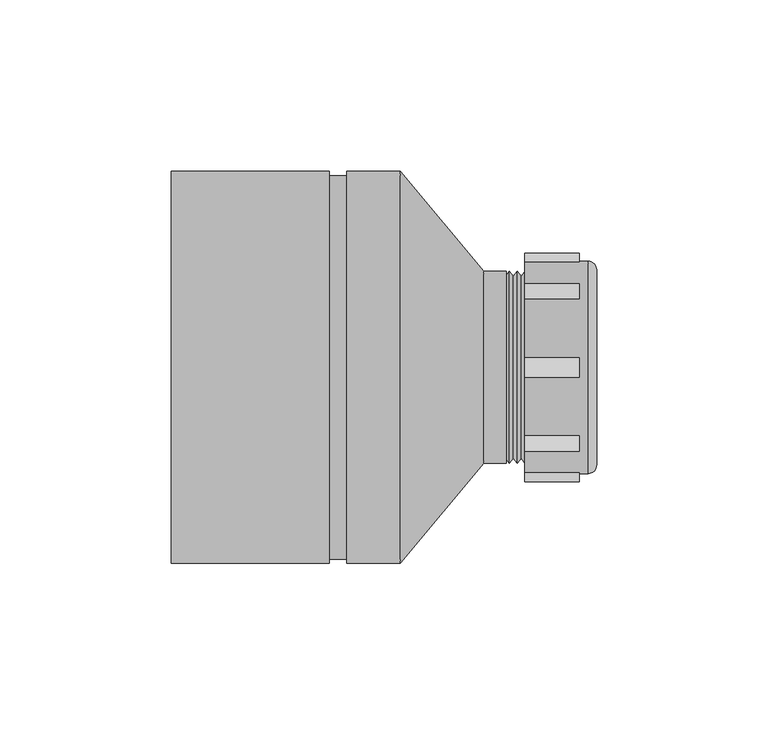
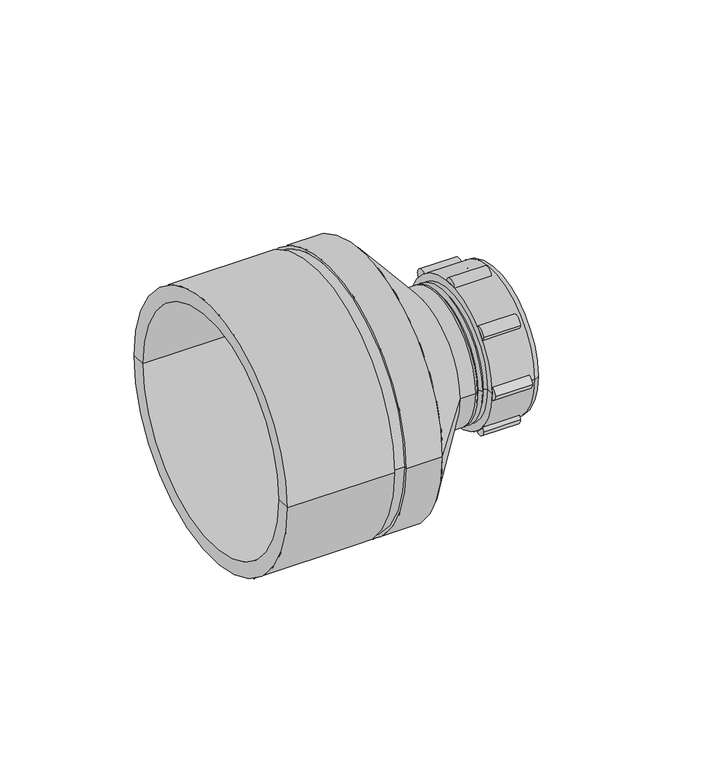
"""IFC4 building model written with IfcOpenShell, lengths in millimetres: pipe fitting geometry, Durapipe_PipeFitting_VulcatheneMechanical_ReducingCoupler_W39 : W3921_2Inxh x 1.5Inch_51mm x 38mm."""

from ifc_helpers import new_model, si_unit, point, frame, frame_2d, origin, place, context, project, spatial, polyline, circle_curve, ellipse_curve, trimmed, segment, composite_curve, outline, extrude, source, transform, mapped, element, save
from ifc_brep_helpers import plane_surface, cylinder_surface, revolved_surface, advanced_brep


def pipe_fitting_35e404ef(model_context):
    return source(origin(), model_context, "Body", "SolidModel", [
        advanced_brep(
        [(-62.0, -57.15, 0.0), (-62.0, 57.15, 0.0), (-15.9625, 57.15, 0.0), (-15.9625, -57.15, 0.0), (-62.0, -50.8, 0.0), (-62.0, 50.8, 0.0), (1.5, -50.8, 0.0), (1.5, 50.8, 0.0), (28.658437, -20.6375, 0.0), (28.658437, 20.6375, 0.0), (32.869, -20.6375, 0.0), (32.869, 20.6375, 0.0), (32.869, -24.2697, 0.0), (32.869, 24.2697, 0.0), (41.1, -24.2697, 0.0), (41.1, 24.2697, 0.0), (41.1, -27.8855714, 0.0), (41.1, 27.8855714, 0.0), (41.1, 30.9478068, 0.0), (41.1, -30.9478068, 0.0), (40.0275, -26.5176, 0.0), (40.0275, 26.5176, 0.0), (38.8725, -27.9908, 0.0), (38.8725, 27.9908, 0.0), (37.7175, -26.5176, 0.0), (37.7175, 26.5176, 0.0), (36.5625, -27.9908, 0.0), (36.5625, 27.9908, 0.0), (35.63125, -26.8029926, 0.0), (35.63125, 26.8029926, 0.0), (35.63125, -27.9908, 0.0), (35.63125, 27.9908, 0.0), (29.142474, -27.9908, 0.0), (29.142474, 27.9908, 0.0), (4.7358364, -57.15, 0.0), (4.7358364, 57.15, 0.0), (-10.8825, -57.15, 0.0), (-10.8825, 57.15, 0.0), (-10.8825, -55.9181, 0.0), (-10.8825, 55.9181, 0.0), (-15.9625, -55.9181, 0.0), (-15.9625, 55.9181, 0.0), (62.0, -28.4478068, 0.0), (62.0, 28.4478068, 0.0), (62.0, 24.4, 0.0), (62.0, -24.4, 0.0), (59.5, -30.9478068, 0.0), (59.5, 30.9478068, 0.0), (41.1, -27.7, 0.0), (41.1, 27.7, 0.0), (57.8, -27.7, 0.0), (57.8, 27.7, 0.0), (57.8, -24.4, 0.0), (57.8, 24.4, 0.0)],
        [
            (0, 1, circle_curve(frame((-62.0, 0.0, 0.0), z_axis=(1.0, 0.0, 0.0), x_axis=(0.0, 1.0, 0.0)), 57.15)),
            (1, 2),
            (2, 3, circle_curve(frame((-15.9625, 0.0, 0.0), z_axis=(-1.0, 0.0, 0.0), x_axis=(0.0, 1.0, 0.0)), 57.15)),
            (3, 0),
            (1, 0, circle_curve(frame((-62.0, 0.0, 0.0), z_axis=(1.0, 0.0, 0.0), x_axis=(0.0, 1.0, 0.0)), 57.15)),
            (3, 2, circle_curve(frame((-15.9625, 0.0, 0.0), z_axis=(-1.0, 0.0, 0.0), x_axis=(0.0, 1.0, 0.0)), 57.15)),
            (4, 5, circle_curve(frame((-62.0, 0.0, 0.0), z_axis=(1.0, 0.0, 0.0), x_axis=(0.0, 1.0, 0.0)), 50.8)),
            (5, 1),
            (0, 4),
            (5, 4, circle_curve(frame((-62.0, 0.0, 0.0), z_axis=(1.0, 0.0, 0.0), x_axis=(0.0, 1.0, 0.0)), 50.8)),
            (6, 7, circle_curve(frame((1.5, 0.0, 0.0), z_axis=(1.0, 0.0, 0.0), x_axis=(0.0, 1.0, 0.0)), 50.8)),
            (7, 5),
            (4, 6),
            (7, 6, circle_curve(frame((1.5, 0.0, 0.0), z_axis=(1.0, 0.0, 0.0), x_axis=(0.0, 1.0, 0.0)), 50.8)),
            (8, 9, circle_curve(frame((28.658437, 0.0, 0.0), z_axis=(1.0, 0.0, 0.0), x_axis=(0.0, 1.0, 0.0)), 20.6375)),
            (9, 7),
            (6, 8),
            (9, 8, circle_curve(frame((28.658437, 0.0, 0.0), z_axis=(1.0, 0.0, 0.0), x_axis=(0.0, 1.0, 0.0)), 20.6375)),
            (10, 11, circle_curve(frame((32.869, 0.0, 0.0), z_axis=(1.0, 0.0, 0.0), x_axis=(0.0, 1.0, 0.0)), 20.6375)),
            (11, 9),
            (8, 10),
            (11, 10, circle_curve(frame((32.869, 0.0, 0.0), z_axis=(1.0, 0.0, 0.0), x_axis=(0.0, 1.0, 0.0)), 20.6375)),
            (12, 13, circle_curve(frame((32.869, 0.0, 0.0), z_axis=(1.0, 0.0, 0.0), x_axis=(0.0, 1.0, 0.0)), 24.2697)),
            (13, 11),
            (10, 12),
            (13, 12, circle_curve(frame((32.869, 0.0, 0.0), z_axis=(1.0, 0.0, 0.0), x_axis=(0.0, 1.0, 0.0)), 24.2697)),
            (14, 15, circle_curve(frame((41.1, 0.0, 0.0), z_axis=(1.0, 0.0, 0.0), x_axis=(0.0, 1.0, 0.0)), 24.2697)),
            (15, 13),
            (12, 14),
            (15, 14, circle_curve(frame((41.1, 0.0, 0.0), z_axis=(1.0, 0.0, 0.0), x_axis=(0.0, 1.0, 0.0)), 24.2697)),
            (16, 17, circle_curve(frame((41.1, 0.0, 0.0), z_axis=(1.0, 0.0, 0.0), x_axis=(0.0, 1.0, 0.0)), 27.8855714)),
            (17, 18),
            (18, 19, circle_curve(frame((41.1, 0.0, 0.0), z_axis=(-1.0, 0.0, 0.0), x_axis=(0.0, 1.0, 0.0)), 30.9478068)),
            (19, 16),
            (17, 16, circle_curve(frame((41.1, 0.0, 0.0), z_axis=(1.0, 0.0, 0.0), x_axis=(0.0, 1.0, 0.0)), 27.8855714)),
            (19, 18, circle_curve(frame((41.1, 0.0, 0.0), z_axis=(-1.0, 0.0, 0.0), x_axis=(0.0, 1.0, 0.0)), 30.9478068)),
            (20, 21, circle_curve(frame((40.0275, 0.0, 0.0), z_axis=(1.0, 0.0, 0.0), x_axis=(0.0, 1.0, 0.0)), 26.5176)),
            (21, 17),
            (16, 20),
            (21, 20, circle_curve(frame((40.0275, 0.0, 0.0), z_axis=(1.0, 0.0, 0.0), x_axis=(0.0, 1.0, 0.0)), 26.5176)),
            (22, 23, circle_curve(frame((38.8725, 0.0, 0.0), z_axis=(1.0, 0.0, 0.0), x_axis=(0.0, 1.0, 0.0)), 27.9908)),
            (23, 21),
            (20, 22),
            (23, 22, circle_curve(frame((38.8725, 0.0, 0.0), z_axis=(1.0, 0.0, 0.0), x_axis=(0.0, 1.0, 0.0)), 27.9908)),
            (24, 25, circle_curve(frame((37.7175, 0.0, 0.0), z_axis=(1.0, 0.0, 0.0), x_axis=(0.0, 1.0, 0.0)), 26.5176)),
            (25, 23),
            (22, 24),
            (25, 24, circle_curve(frame((37.7175, 0.0, 0.0), z_axis=(1.0, 0.0, 0.0), x_axis=(0.0, 1.0, 0.0)), 26.5176)),
            (26, 27, circle_curve(frame((36.5625, 0.0, 0.0), z_axis=(1.0, 0.0, 0.0), x_axis=(0.0, 1.0, 0.0)), 27.9908)),
            (27, 25),
            (24, 26),
            (27, 26, circle_curve(frame((36.5625, 0.0, 0.0), z_axis=(1.0, 0.0, 0.0), x_axis=(0.0, 1.0, 0.0)), 27.9908)),
            (28, 29, circle_curve(frame((35.63125, 0.0, 0.0), z_axis=(1.0, 0.0, 0.0), x_axis=(0.0, 1.0, 0.0)), 26.8029926)),
            (29, 27),
            (26, 28),
            (29, 28, circle_curve(frame((35.63125, 0.0, 0.0), z_axis=(1.0, 0.0, 0.0), x_axis=(0.0, 1.0, 0.0)), 26.8029926)),
            (30, 31, circle_curve(frame((35.63125, 0.0, 0.0), z_axis=(1.0, 0.0, 0.0), x_axis=(0.0, 1.0, 0.0)), 27.9908)),
            (31, 29),
            (28, 30),
            (31, 30, circle_curve(frame((35.63125, 0.0, 0.0), z_axis=(1.0, 0.0, 0.0), x_axis=(0.0, 1.0, 0.0)), 27.9908)),
            (32, 33, circle_curve(frame((29.142474, 0.0, 0.0), z_axis=(1.0, 0.0, 0.0), x_axis=(0.0, 1.0, 0.0)), 27.9908)),
            (33, 31),
            (30, 32),
            (33, 32, circle_curve(frame((29.142474, 0.0, 0.0), z_axis=(1.0, 0.0, 0.0), x_axis=(0.0, 1.0, 0.0)), 27.9908)),
            (34, 35, circle_curve(frame((4.7358364, 0.0, 0.0), z_axis=(1.0, 0.0, 0.0), x_axis=(0.0, 1.0, 0.0)), 57.15)),
            (35, 33),
            (32, 34),
            (35, 34, circle_curve(frame((4.7358364, 0.0, 0.0), z_axis=(1.0, 0.0, 0.0), x_axis=(0.0, 1.0, 0.0)), 57.15)),
            (36, 37, circle_curve(frame((-10.8825, 0.0, 0.0), z_axis=(1.0, 0.0, 0.0), x_axis=(0.0, 1.0, 0.0)), 57.15)),
            (37, 35),
            (34, 36),
            (37, 36, circle_curve(frame((-10.8825, 0.0, 0.0), z_axis=(1.0, 0.0, 0.0), x_axis=(0.0, 1.0, 0.0)), 57.15)),
            (38, 39, circle_curve(frame((-10.8825, 0.0, 0.0), z_axis=(1.0, 0.0, 0.0), x_axis=(0.0, 1.0, 0.0)), 55.9181)),
            (39, 37),
            (36, 38),
            (39, 38, circle_curve(frame((-10.8825, 0.0, 0.0), z_axis=(1.0, 0.0, 0.0), x_axis=(0.0, 1.0, 0.0)), 55.9181)),
            (40, 41, circle_curve(frame((-15.9625, 0.0, 0.0), z_axis=(1.0, 0.0, 0.0), x_axis=(0.0, 1.0, 0.0)), 55.9181)),
            (41, 39),
            (38, 40),
            (41, 40, circle_curve(frame((-15.9625, 0.0, 0.0), z_axis=(1.0, 0.0, 0.0), x_axis=(0.0, 1.0, 0.0)), 55.9181)),
            (2, 41),
            (40, 3),
            (42, 43, circle_curve(frame((62.0, 0.0, 0.0), z_axis=(1.0, 0.0, 0.0), x_axis=(0.0, 1.0, 0.0)), 28.4478068)),
            (43, 44),
            (44, 45, circle_curve(frame((62.0, 0.0, 0.0), z_axis=(-1.0, 0.0, 0.0), x_axis=(0.0, 1.0, 0.0)), 24.4)),
            (45, 42),
            (43, 42, circle_curve(frame((62.0, 0.0, 0.0), z_axis=(1.0, 0.0, 0.0), x_axis=(0.0, 1.0, 0.0)), 28.4478068)),
            (45, 44, circle_curve(frame((62.0, 0.0, 0.0), z_axis=(-1.0, 0.0, 0.0), x_axis=(0.0, 1.0, 0.0)), 24.4)),
            (46, 47, circle_curve(frame((59.5, 0.0, 0.0), z_axis=(1.0, 0.0, 0.0), x_axis=(0.0, 1.0, 0.0)), 30.9478068)),
            (47, 43, circle_curve(frame((59.5, 28.4478068, 0.0), z_axis=(0.0, 0.0, -1.0), x_axis=(1.0, 0.0, 0.0)), 2.5)),
            (42, 46, circle_curve(frame((59.5, -28.4478068, 0.0), z_axis=(0.0, 0.0, -1.0), x_axis=(1.0, 0.0, 0.0)), 2.5)),
            (47, 46, circle_curve(frame((59.5, 0.0, 0.0), z_axis=(1.0, 0.0, 0.0), x_axis=(0.0, 1.0, 0.0)), 30.9478068)),
            (18, 47),
            (46, 19),
            (48, 49, circle_curve(frame((41.1, 0.0, 0.0), z_axis=(1.0, 0.0, 0.0), x_axis=(0.0, 1.0, 0.0)), 27.7)),
            (49, 15),
            (14, 48),
            (49, 48, circle_curve(frame((41.1, 0.0, 0.0), z_axis=(1.0, 0.0, 0.0), x_axis=(0.0, 1.0, 0.0)), 27.7)),
            (50, 51, circle_curve(frame((57.8, 0.0, 0.0), z_axis=(1.0, 0.0, 0.0), x_axis=(0.0, 1.0, 0.0)), 27.7)),
            (51, 49),
            (48, 50),
            (51, 50, circle_curve(frame((57.8, 0.0, 0.0), z_axis=(1.0, 0.0, 0.0), x_axis=(0.0, 1.0, 0.0)), 27.7)),
            (52, 53, circle_curve(frame((57.8, 0.0, 0.0), z_axis=(1.0, 0.0, 0.0), x_axis=(0.0, 1.0, 0.0)), 24.4)),
            (53, 51),
            (50, 52),
            (53, 52, circle_curve(frame((57.8, 0.0, 0.0), z_axis=(1.0, 0.0, 0.0), x_axis=(0.0, 1.0, 0.0)), 24.4)),
            (44, 53),
            (52, 45),
        ],
        [
            cylinder_surface(frame((78.658437, 0.0, 0.0), z_axis=(-1.0, 0.0, 0.0), x_axis=(0.0, 1.0, 0.0)), 57.15),
            plane_surface(frame((-62.0, 0.0, 0.0), z_axis=(-1.0, 0.0, 0.0), x_axis=(0.0, 1.0, 0.0))),
            revolved_surface(polyline([(-61.999999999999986, 50.8, 0.0), (1.5, 50.8, 0.0)]), (78.658437, 0.0, 0.0), (-1.0, 0.0, 0.0)),
            revolved_surface(polyline([(1.5, 50.8, 0.0), (28.658437, 20.6375, 0.0)]), (78.658437, 0.0, 0.0), (-1.0, 0.0, 0.0)),
            revolved_surface(polyline([(28.658437, 20.6375, 0.0), (32.869, 20.6375, 0.0)]), (78.658437, 0.0, 0.0), (-1.0, 0.0, 0.0)),
            plane_surface(frame((32.869, 0.0, 0.0), z_axis=(1.0, 0.0, 0.0), x_axis=(0.0, 1.0, 0.0))),
            revolved_surface(polyline([(32.869, 24.2697, 0.0), (41.1, 24.2697, 0.0)]), (78.658437, 0.0, 0.0), (-1.0, 0.0, 0.0)),
            plane_surface(frame((41.1, 0.0, 0.0), z_axis=(-1.0, 0.0, 0.0), x_axis=(0.0, 1.0, 0.0))),
            revolved_surface(polyline([(41.1, 27.8855714, 0.0), (40.0275, 26.5176, 0.0)]), (78.658437, 0.0, 0.0), (-1.0, 0.0, 0.0)),
            revolved_surface(polyline([(40.0275, 26.5176, 0.0), (38.8725, 27.9908, 0.0)]), (78.658437, 0.0, 0.0), (-1.0, 0.0, 0.0)),
            revolved_surface(polyline([(38.8725, 27.9908, 0.0), (37.7175, 26.5176, 0.0)]), (78.658437, 0.0, 0.0), (-1.0, 0.0, 0.0)),
            revolved_surface(polyline([(37.7175, 26.5176, 0.0), (36.5625, 27.9908, 0.0)]), (78.658437, 0.0, 0.0), (-1.0, 0.0, 0.0)),
            revolved_surface(polyline([(36.5625, 27.9908, 0.0), (35.63125, 26.8029926, 0.0)]), (78.658437, 0.0, 0.0), (-1.0, 0.0, 0.0)),
            plane_surface(frame((35.63125, 0.0, 0.0), z_axis=(1.0, 0.0, 0.0), x_axis=(0.0, 1.0, 0.0))),
            cylinder_surface(frame((78.658437, 0.0, 0.0), z_axis=(-1.0, 0.0, 0.0), x_axis=(0.0, 1.0, 0.0)), 27.9908),
            revolved_surface(polyline([(29.142474, 27.9908, 0.0), (4.7358364, 57.15, 0.0)]), (78.658437, 0.0, 0.0), (-1.0, 0.0, 0.0)),
            plane_surface(frame((-10.8825, 0.0, 0.0), z_axis=(-1.0, 0.0, 0.0), x_axis=(0.0, 1.0, 0.0))),
            cylinder_surface(frame((78.658437, 0.0, 0.0), z_axis=(-1.0, 0.0, 0.0), x_axis=(0.0, 1.0, 0.0)), 55.9181),
            plane_surface(frame((-15.9625, 0.0, 0.0), z_axis=(1.0, 0.0, 0.0), x_axis=(0.0, 1.0, 0.0))),
            plane_surface(frame((62.0, 0.0, 0.0), z_axis=(1.0, 0.0, 0.0), x_axis=(0.0, 1.0, 0.0))),
            revolved_surface(trimmed(ellipse_curve(frame((59.5, 28.4478068, 0.0), z_axis=(0.0, 0.0, 1.0), x_axis=(1.0, 0.0, 0.0)), 2.5, 2.5), [point((62.0, 28.4478068, 0.0))], [point((59.5, 30.9478068, 0.0))], True, "CARTESIAN"), (78.658437, 0.0, 0.0), (-1.0, 0.0, 0.0)),
            cylinder_surface(frame((78.658437, 0.0, 0.0), z_axis=(-1.0, 0.0, 0.0), x_axis=(0.0, 1.0, 0.0)), 30.9478068),
            plane_surface(frame((41.1, 0.0, 0.0), z_axis=(1.0, 0.0, 0.0), x_axis=(0.0, 1.0, 0.0))),
            revolved_surface(polyline([(41.1, 27.7, 0.0), (57.8, 27.7, 0.0)]), (78.658437, 0.0, 0.0), (-1.0, 0.0, 0.0)),
            plane_surface(frame((57.8, 0.0, 0.0), z_axis=(-1.0, 0.0, 0.0), x_axis=(0.0, 1.0, 0.0))),
            revolved_surface(polyline([(57.8, 24.4, 0.0), (62.0, 24.4, 0.0)]), (78.658437, 0.0, 0.0), (-1.0, 0.0, 0.0)),
        ],
        [
            (0, [[1, 2, 3, 4]]),
            (0, [[5, -4, 6, -2]]),
            (1, [[7, 8, -1, 9]]),
            (1, [[10, -9, -5, -8]]),
            (2, [[11, 12, -7, 13]]),
            (2, [[14, -13, -10, -12]]),
            (3, [[15, 16, -11, 17]]),
            (3, [[18, -17, -14, -16]]),
            (4, [[19, 20, -15, 21]]),
            (4, [[22, -21, -18, -20]]),
            (5, [[23, 24, -19, 25]]),
            (5, [[26, -25, -22, -24]]),
            (6, [[27, 28, -23, 29]]),
            (6, [[30, -29, -26, -28]]),
            (7, [[31, 32, 33, 34]]),
            (7, [[35, -34, 36, -32]]),
            (8, [[37, 38, -31, 39]]),
            (8, [[40, -39, -35, -38]]),
            (9, [[41, 42, -37, 43]]),
            (9, [[44, -43, -40, -42]]),
            (10, [[45, 46, -41, 47]]),
            (10, [[48, -47, -44, -46]]),
            (11, [[49, 50, -45, 51]]),
            (11, [[52, -51, -48, -50]]),
            (12, [[53, 54, -49, 55]]),
            (12, [[56, -55, -52, -54]]),
            (13, [[57, 58, -53, 59]]),
            (13, [[60, -59, -56, -58]]),
            (14, [[61, 62, -57, 63]]),
            (14, [[64, -63, -60, -62]]),
            (15, [[65, 66, -61, 67]]),
            (15, [[68, -67, -64, -66]]),
            (0, [[69, 70, -65, 71]]),
            (0, [[72, -71, -68, -70]]),
            (16, [[73, 74, -69, 75]]),
            (16, [[76, -75, -72, -74]]),
            (17, [[77, 78, -73, 79]]),
            (17, [[80, -79, -76, -78]]),
            (18, [[-3, 81, -77, 82]]),
            (18, [[-6, -82, -80, -81]]),
            (19, [[83, 84, 85, 86]]),
            (19, [[87, -86, 88, -84]]),
            (20, [[89, 90, -83, 91]]),
            (20, [[92, -91, -87, -90]]),
            (21, [[-33, 93, -89, 94]]),
            (21, [[-36, -94, -92, -93]]),
            (22, [[95, 96, -27, 97]]),
            (22, [[98, -97, -30, -96]]),
            (23, [[99, 100, -95, 101]]),
            (23, [[102, -101, -98, -100]]),
            (24, [[103, 104, -99, 105]]),
            (24, [[106, -105, -102, -104]]),
            (25, [[-85, 107, -103, 108]]),
            (25, [[-88, -108, -106, -107]]),
        ],
    ),
        advanced_brep(
        [(53.3, -24.2, 0.0), (53.3, 24.2, 0.0), (51.3, 24.2, 0.0), (51.3, -24.2, 0.0), (53.3, -23.4, 0.0), (53.3, 23.4, 0.0), (55.6, -23.4, 0.0), (55.6, 23.4, 0.0), (55.6, -24.2, 0.0), (55.6, 24.2, 0.0), (57.8, -24.2, 0.0), (57.8, 24.2, 0.0), (57.8, -26.36, 0.0), (57.8, 26.36, 0.0), (52.8, -25.9, 0.0), (52.8, 25.9, 0.0), (52.8, -25.1, 0.0), (52.8, 25.1, 0.0), (51.3, -25.1, 0.0), (51.3, 25.1, 0.0)],
        [
            (0, 1, circle_curve(frame((53.3, 0.0, 0.0), z_axis=(1.0, 0.0, 0.0), x_axis=(0.0, 1.0, 0.0)), 24.2)),
            (1, 2),
            (2, 3, circle_curve(frame((51.3, 0.0, 0.0), z_axis=(-1.0, 0.0, 0.0), x_axis=(0.0, 1.0, 0.0)), 24.2)),
            (3, 0),
            (1, 0, circle_curve(frame((53.3, 0.0, 0.0), z_axis=(1.0, 0.0, 0.0), x_axis=(0.0, 1.0, 0.0)), 24.2)),
            (3, 2, circle_curve(frame((51.3, 0.0, 0.0), z_axis=(-1.0, 0.0, 0.0), x_axis=(0.0, 1.0, 0.0)), 24.2)),
            (4, 5, circle_curve(frame((53.3, 0.0, 0.0), z_axis=(1.0, 0.0, 0.0), x_axis=(0.0, 1.0, 0.0)), 23.4)),
            (5, 1),
            (0, 4),
            (5, 4, circle_curve(frame((53.3, 0.0, 0.0), z_axis=(1.0, 0.0, 0.0), x_axis=(0.0, 1.0, 0.0)), 23.4)),
            (6, 7, circle_curve(frame((55.6, 0.0, 0.0), z_axis=(1.0, 0.0, 0.0), x_axis=(0.0, 1.0, 0.0)), 23.4)),
            (7, 5),
            (4, 6),
            (7, 6, circle_curve(frame((55.6, 0.0, 0.0), z_axis=(1.0, 0.0, 0.0), x_axis=(0.0, 1.0, 0.0)), 23.4)),
            (8, 9, circle_curve(frame((55.6, 0.0, 0.0), z_axis=(1.0, 0.0, 0.0), x_axis=(0.0, 1.0, 0.0)), 24.2)),
            (9, 7),
            (6, 8),
            (9, 8, circle_curve(frame((55.6, 0.0, 0.0), z_axis=(1.0, 0.0, 0.0), x_axis=(0.0, 1.0, 0.0)), 24.2)),
            (10, 11, circle_curve(frame((57.8, 0.0, 0.0), z_axis=(1.0, 0.0, 0.0), x_axis=(0.0, 1.0, 0.0)), 24.2)),
            (11, 9),
            (8, 10),
            (11, 10, circle_curve(frame((57.8, 0.0, 0.0), z_axis=(1.0, 0.0, 0.0), x_axis=(0.0, 1.0, 0.0)), 24.2)),
            (12, 13, circle_curve(frame((57.8, 0.0, 0.0), z_axis=(1.0, 0.0, 0.0), x_axis=(0.0, 1.0, 0.0)), 26.36)),
            (13, 11),
            (10, 12),
            (13, 12, circle_curve(frame((57.8, 0.0, 0.0), z_axis=(1.0, 0.0, 0.0), x_axis=(0.0, 1.0, 0.0)), 26.36)),
            (14, 15, circle_curve(frame((52.8, 0.0, 0.0), z_axis=(1.0, 0.0, 0.0), x_axis=(0.0, 1.0, 0.0)), 25.9)),
            (15, 13),
            (12, 14),
            (15, 14, circle_curve(frame((52.8, 0.0, 0.0), z_axis=(1.0, 0.0, 0.0), x_axis=(0.0, 1.0, 0.0)), 25.9)),
            (16, 17, circle_curve(frame((52.8, 0.0, 0.0), z_axis=(1.0, 0.0, 0.0), x_axis=(0.0, 1.0, 0.0)), 25.1)),
            (17, 15),
            (14, 16),
            (17, 16, circle_curve(frame((52.8, 0.0, 0.0), z_axis=(1.0, 0.0, 0.0), x_axis=(0.0, 1.0, 0.0)), 25.1)),
            (18, 19, circle_curve(frame((51.3, 0.0, 0.0), z_axis=(1.0, 0.0, 0.0), x_axis=(0.0, 1.0, 0.0)), 25.1)),
            (19, 17),
            (16, 18),
            (19, 18, circle_curve(frame((51.3, 0.0, 0.0), z_axis=(1.0, 0.0, 0.0), x_axis=(0.0, 1.0, 0.0)), 25.1)),
            (2, 19),
            (18, 3),
        ],
        [
            revolved_surface(polyline([(51.299999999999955, 24.2, 0.0), (53.299999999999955, 24.2, 0.0)]), (1571.2518184, 0.0, 0.0), (-1.0, 0.0, 0.0)),
            plane_surface(frame((53.3, 0.0, 0.0), z_axis=(-1.0, 0.0, 0.0), x_axis=(0.0, 1.0, 0.0))),
            revolved_surface(polyline([(53.299999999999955, 23.4, 0.0), (55.59999999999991, 23.4, 0.0)]), (1571.2518184, 0.0, 0.0), (-1.0, 0.0, 0.0)),
            plane_surface(frame((55.6, 0.0, 0.0), z_axis=(1.0, 0.0, 0.0), x_axis=(0.0, 1.0, 0.0))),
            revolved_surface(polyline([(55.59999999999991, 24.2, 0.0), (57.799999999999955, 24.2, 0.0)]), (1571.2518184, 0.0, 0.0), (-1.0, 0.0, 0.0)),
            plane_surface(frame((57.8, 0.0, 0.0), z_axis=(1.0, 0.0, 0.0), x_axis=(0.0, 1.0, 0.0))),
            revolved_surface(polyline([(57.8, 26.36, 0.0), (52.8, 25.9, 0.0)]), (1571.2518184, 0.0, 0.0), (-1.0, 0.0, 0.0)),
            plane_surface(frame((52.8, 0.0, 0.0), z_axis=(-1.0, 0.0, 0.0), x_axis=(0.0, 1.0, 0.0))),
            cylinder_surface(frame((1571.2518184, 0.0, 0.0), z_axis=(-1.0, 0.0, 0.0), x_axis=(0.0, 1.0, 0.0)), 25.1),
            plane_surface(frame((51.3, 0.0, 0.0), z_axis=(-1.0, 0.0, 0.0), x_axis=(0.0, 1.0, 0.0))),
        ],
        [
            (0, [[1, 2, 3, 4]]),
            (0, [[5, -4, 6, -2]]),
            (1, [[7, 8, -1, 9]]),
            (1, [[10, -9, -5, -8]]),
            (2, [[11, 12, -7, 13]]),
            (2, [[14, -13, -10, -12]]),
            (3, [[15, 16, -11, 17]]),
            (3, [[18, -17, -14, -16]]),
            (4, [[19, 20, -15, 21]]),
            (4, [[22, -21, -18, -20]]),
            (5, [[23, 24, -19, 25]]),
            (5, [[26, -25, -22, -24]]),
            (6, [[27, 28, -23, 29]]),
            (6, [[30, -29, -26, -28]]),
            (7, [[31, 32, -27, 33]]),
            (7, [[34, -33, -30, -32]]),
            (8, [[35, 36, -31, 37]]),
            (8, [[38, -37, -34, -36]]),
            (9, [[-3, 39, -35, 40]]),
            (9, [[-6, -40, -38, -39]]),
        ],
    ),
        extrude(outline(composite_curve([segment(trimmed(circle_curve(frame_2d((-21.4606908, 21.4606908)), 3.0), [point((-24.4606908, 21.4606908))], [point((-18.4606908, 21.4606908))], False, "CARTESIAN"), True, "CONTINUOUS"), segment(trimmed(circle_curve(frame_2d((-21.4606908, 21.4606908)), 3.0), [point((-18.4606908, 21.4606908))], [point((-24.4606908, 21.4606908))], False, "CARTESIAN"), True, "CONTINUOUS")], self_intersect=False)), frame((41.1, 0.0, 0.0), z_axis=(1.0, 0.0, 0.0), x_axis=(0.0, 1.0, 0.0)), (0.0, 0.0, 1.0), 15.9),
        extrude(outline(composite_curve([segment(trimmed(circle_curve(frame_2d((0.0, 30.35)), 3.0), [point((-3.0, 30.35))], [point((3.0, 30.35))], False, "CARTESIAN"), True, "CONTINUOUS"), segment(trimmed(circle_curve(frame_2d((0.0, 30.35)), 3.0), [point((3.0, 30.35))], [point((-3.0, 30.35))], False, "CARTESIAN"), True, "CONTINUOUS")], self_intersect=False)), frame((41.1, 0.0, 0.0), z_axis=(1.0, 0.0, 0.0), x_axis=(0.0, 1.0, 0.0)), (0.0, 0.0, 1.0), 15.9),
        extrude(outline(composite_curve([segment(trimmed(circle_curve(frame_2d((21.4606908, 21.4606908)), 3.0), [point((18.4606908, 21.4606908))], [point((24.4606908, 21.4606908))], False, "CARTESIAN"), True, "CONTINUOUS"), segment(trimmed(circle_curve(frame_2d((21.4606908, 21.4606908)), 3.0), [point((24.4606908, 21.4606908))], [point((18.4606908, 21.4606908))], False, "CARTESIAN"), True, "CONTINUOUS")], self_intersect=False)), frame((41.1, 0.0, 0.0), z_axis=(1.0, 0.0, 0.0), x_axis=(0.0, 1.0, 0.0)), (0.0, 0.0, 1.0), 15.9),
        extrude(outline(composite_curve([segment(trimmed(circle_curve(frame_2d((30.35, 0.0)), 3.0), [point((27.35, 0.0))], [point((33.35, 0.0))], False, "CARTESIAN"), True, "CONTINUOUS"), segment(trimmed(circle_curve(frame_2d((30.35, 0.0)), 3.0), [point((33.35, 0.0))], [point((27.35, 0.0))], False, "CARTESIAN"), True, "CONTINUOUS")], self_intersect=False)), frame((41.1, 0.0, 0.0), z_axis=(1.0, 0.0, 0.0), x_axis=(0.0, 1.0, 0.0)), (0.0, 0.0, 1.0), 15.9),
        extrude(outline(composite_curve([segment(trimmed(circle_curve(frame_2d((0.0, -30.35)), 3.0), [point((-3.0, -30.35))], [point((3.0, -30.35))], False, "CARTESIAN"), True, "CONTINUOUS"), segment(trimmed(circle_curve(frame_2d((0.0, -30.35)), 3.0), [point((3.0, -30.35))], [point((-3.0, -30.35))], False, "CARTESIAN"), True, "CONTINUOUS")], self_intersect=False)), frame((41.1, 0.0, 0.0), z_axis=(1.0, 0.0, 0.0), x_axis=(0.0, 1.0, 0.0)), (0.0, 0.0, 1.0), 15.9),
        extrude(outline(composite_curve([segment(trimmed(circle_curve(frame_2d((-21.4606908, -21.4606908)), 3.0), [point((-24.4606908, -21.4606908))], [point((-18.4606908, -21.4606908))], False, "CARTESIAN"), True, "CONTINUOUS"), segment(trimmed(circle_curve(frame_2d((-21.4606908, -21.4606908)), 3.0), [point((-18.4606908, -21.4606908))], [point((-24.4606908, -21.4606908))], False, "CARTESIAN"), True, "CONTINUOUS")], self_intersect=False)), frame((41.1, 0.0, 0.0), z_axis=(1.0, 0.0, 0.0), x_axis=(0.0, 1.0, 0.0)), (0.0, 0.0, 1.0), 15.9),
        extrude(outline(composite_curve([segment(trimmed(circle_curve(frame_2d((-30.35, 0.0)), 3.0), [point((-33.35, 0.0))], [point((-27.35, 0.0))], False, "CARTESIAN"), True, "CONTINUOUS"), segment(trimmed(circle_curve(frame_2d((-30.35, 0.0)), 3.0), [point((-27.35, 0.0))], [point((-33.35, 0.0))], False, "CARTESIAN"), True, "CONTINUOUS")], self_intersect=False)), frame((41.1, 0.0, 0.0), z_axis=(1.0, 0.0, 0.0), x_axis=(0.0, 1.0, 0.0)), (0.0, 0.0, 1.0), 15.9),
        extrude(outline(composite_curve([segment(trimmed(circle_curve(frame_2d((21.4606908, -21.4606908)), 3.0), [point((18.4606908, -21.4606908))], [point((24.4606908, -21.4606908))], False, "CARTESIAN"), True, "CONTINUOUS"), segment(trimmed(circle_curve(frame_2d((21.4606908, -21.4606908)), 3.0), [point((24.4606908, -21.4606908))], [point((18.4606908, -21.4606908))], False, "CARTESIAN"), True, "CONTINUOUS")], self_intersect=False)), frame((41.1, 0.0, 0.0), z_axis=(1.0, 0.0, 0.0), x_axis=(0.0, 1.0, 0.0)), (0.0, 0.0, 1.0), 15.9),
    ])


if __name__ == "__main__":
    model = new_model("IFC4")
    model_context = context("Model", 3, world=origin())
    ifc_project = project(units=[si_unit("LENGTHUNIT", "METRE", prefix="MILLI")], contexts=[model_context])
    site = spatial("IfcSite", under=ifc_project)
    building = spatial("IfcBuilding", under=site)
    placement = place(None, origin())
    pipe_fitting_shape = pipe_fitting_35e404ef(model_context)
    element("IfcPipeFitting", 1, ObjectType="Durapipe_PipeFitting_VulcatheneMechanical_ReducingCoupler_W39 : W3921_2Inxh x 1.5Inch_51mm x 38mm", at=placement, inside=building, context=model_context, shape_type="MappedRepresentation", body=[
        mapped(pipe_fitting_shape, transform((0.0, 0.0, 0.0), x_axis=(1.0, 0.0, 0.0), y_axis=(0.0, 1.0, 0.0), z_axis=(0.0, 0.0, 1.0))),
    ])
    save(model, "model.ifc")
